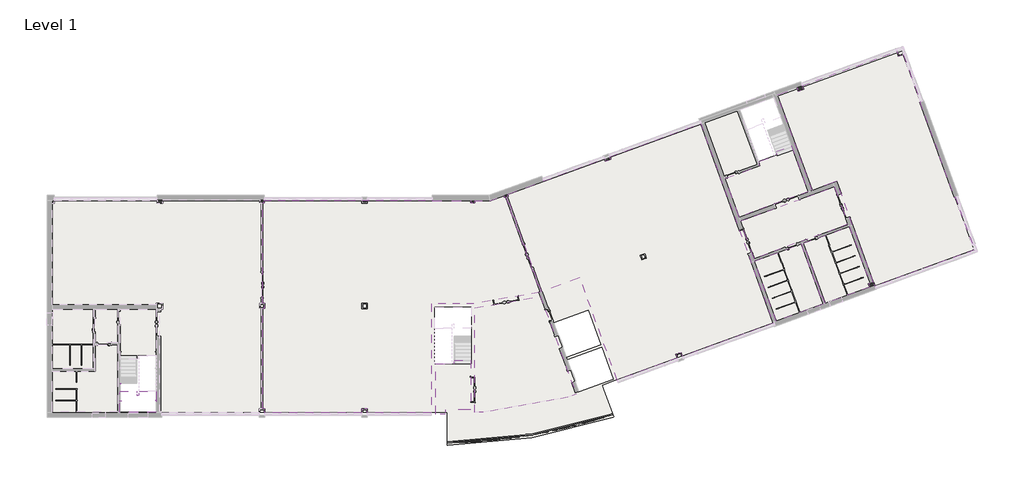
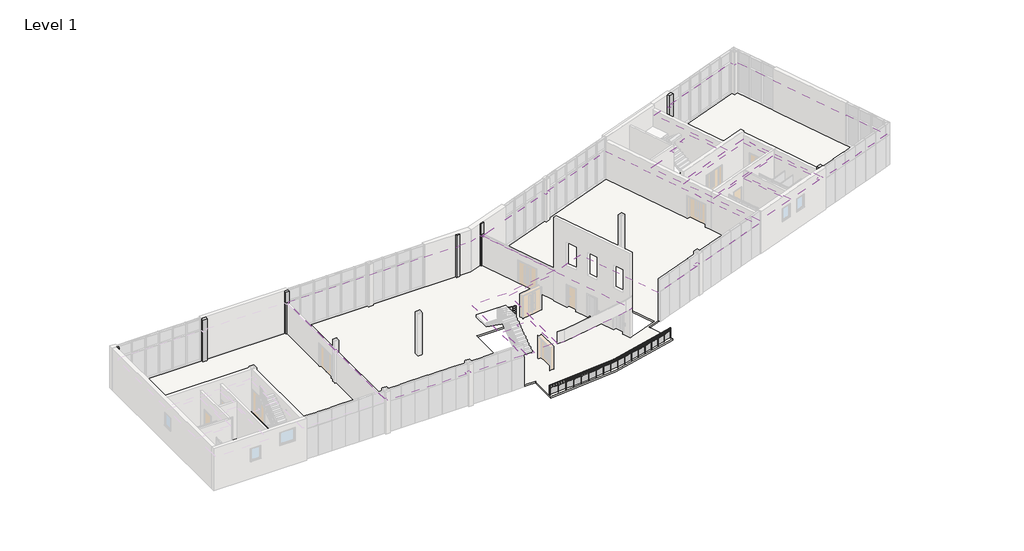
# One storey, part 7 of 12: 9 coverings, 7 columns, 3 proxies, 2 slabs, 1 railing.
"""IFC4 building model written with IfcOpenShell, lengths in millimetres."""

from ifc_helpers import new_model, si_unit, point, frame, frame_2d, origin, place, context, project, spatial, polyline, circle_curve, ellipse_curve, trimmed, segment, composite_curve, outline, extrude, faceted_brep, transform, mapped, element, save
from ifc_brep_helpers import plane_surface, cylinder_surface, revolved_surface, advanced_brep
from components import support_metal_circular1_support_metal_circular_016e83f0

model = new_model("IFC4")

# Units and contexts
model_context = context("Model", 3, world=origin())
ifc_project = project(units=[si_unit("LENGTHUNIT", "METRE", prefix="MILLI")], contexts=[model_context])

# Site, building, storey
site = spatial("IfcSite", under=ifc_project)
building = spatial("IfcBuilding", under=site)
storey = spatial("IfcBuildingStorey", under=building, Name="Level 1", Elevation=3900.0)

# Proxies
placement = place(None, origin())
support_metal_circular1_support_metal_circular_shape = support_metal_circular1_support_metal_circular_016e83f0(model_context)
element("IfcBuildingElementProxy", 1, Name="Support - Metal - Circular1 : Support - Metal - Circular", ObjectType="Support - Metal - Circular1 : Support - Metal - Circular", at=placement, inside=storey, context=model_context, shape_type="MappedRepresentation", body=[
    mapped(support_metal_circular1_support_metal_circular_shape, transform((5322.6000025, 2334.2312733, 6353.300689), x_axis=(0.0, 1.0, 0.0), y_axis=(-1.0, 0.0, 0.0), z_axis=(0.0, 0.0, 1.0))),
])
element("IfcBuildingElementProxy", 2, Name="Support - Metal - Circular1 : Support - Metal - Circular", ObjectType="Support - Metal - Circular1 : Support - Metal - Circular", at=placement, inside=storey, context=model_context, shape_type="MappedRepresentation", body=[
    mapped(support_metal_circular1_support_metal_circular_shape, transform((5322.6000025, 1100.0, 6732.1192282), x_axis=(0.0, 1.0, 0.0), y_axis=(-1.0, 0.0, 0.0), z_axis=(0.0, 0.0, 1.0))),
])
element("IfcBuildingElementProxy", 3, Name="Support - Metal - Circular1 : Support - Metal - Circular", ObjectType="Support - Metal - Circular1 : Support - Metal - Circular", at=placement, inside=storey, context=model_context, shape_type="MappedRepresentation", body=[
    mapped(support_metal_circular1_support_metal_circular_shape, transform((7761.8000024, 1150.0, 6732.1192282), x_axis=(0.0, -1.0, 0.0), y_axis=(1.0, 0.0, 0.0), z_axis=(0.0, 0.0, 1.0))),
])

# Columns
element("IfcColumn", 4, ObjectType="Columns_Rectangular : 300x300mm", at=placement, inside=storey, context=model_context, shape_type="SweptSolid", body=[
    extrude(outline(polyline([(562.2000028, 15173.2000005), (433.0000024, 15173.2000005), (433.0000025, 15351.4000013), (562.2000028, 15351.4000013), (562.2000028, 15173.2000005)])), frame((0.0, 0.0, 3900.0), z_axis=(0.0, 0.0, 1.0), x_axis=(1.0, 0.0, 0.0)), (0.0, 0.0, 1.0), 3900.0),
])
element("IfcColumn", 5, ObjectType="Columns_Rectangular : 300x300mm", at=placement, inside=storey, context=model_context, shape_type="Brep", body=[
    faceted_brep([(32610.0635714, 15583.1099494, 7800.0), (32891.9713576, 15685.7159924, 7800.0), (32844.7041738, 15815.5815126, 7800.0), (32562.7963876, 15712.9754696, 7800.0), (32844.7041738, 15815.5815126, 3900.0), (32891.9713576, 15685.7159924, 3900.0), (32807.3990217, 15654.9341795, 3900.0), (32694.6359072, 15613.8917623, 3900.0), (32610.0635714, 15583.1099494, 3900.0), (32562.7963876, 15712.9754696, 3900.0)], [[[0, 1, 2, 3]], [[4, 5, 6, 7, 8, 9]], [[8, 0, 3, 9]], [[1, 0, 8, 7, 6, 5]], [[1, 5, 4, 2]], [[3, 2, 4, 9]]]),
])
element("IfcColumn", 6, ObjectType="Columns_Rectangular : 300x300mm", at=placement, inside=storey, context=model_context, shape_type="SweptSolid", body=[
    extrude(outline(polyline([(30512.2000025, 15213.2000005), (30212.2000025, 15213.2000005), (30212.2000025, 15351.4000004), (30512.2000025, 15351.4000004), (30512.2000025, 15213.2000005)])), frame((0.0, 0.0, 3900.0), z_axis=(0.0, 0.0, 1.0), x_axis=(1.0, 0.0, 0.0)), (0.0, 0.0, 1.0), 3900.0),
])
element("IfcColumn", 7, ObjectType="Columns_Rectangular : 300x300mm", at=placement, inside=storey, context=model_context, shape_type="Brep", body=[
    faceted_brep([(15212.2000024, 15213.2000005, 7800.0), (15512.2000024, 15213.2000005, 7800.0), (15512.2000024, 15413.4000007, 7800.0), (15212.2000024, 15413.4000007, 7800.0), (15512.2000024, 15213.2000005, 3900.0), (15422.2000024, 15213.2000005, 3900.0), (15302.2000024, 15213.2000005, 3900.0), (15212.2000024, 15213.2000005, 3900.0), (15212.2000024, 15413.4000007, 3900.0), (15512.2000024, 15413.4000007, 3900.0)], [[[0, 1, 2, 3]], [[4, 5, 6, 7, 8, 9]], [[7, 0, 3, 8]], [[1, 0, 7, 6, 5, 4]], [[1, 4, 9, 2]], [[3, 2, 9, 8]]]),
])
element("IfcColumn", 8, ObjectType="Columns_Rectangular : 400x400mm", at=placement, inside=storey, context=model_context, shape_type="SweptSolid", body=[
    extrude(outline(polyline([(53911.2024396, 23282.8815641), (53535.3253912, 23146.0735068), (53441.3724579, 23404.2070696), (53817.2495062, 23541.015127), (53911.2024396, 23282.8815641)])), frame((0.0, 0.0, 3900.0), z_axis=(0.0, 0.0, 1.0), x_axis=(1.0, 0.0, 0.0)), (0.0, 0.0, 1.0), 3900.0),
])
element("IfcColumn", 9, ObjectType="Columns_Rectangular : 400x400mm", at=placement, inside=storey, context=model_context, shape_type="SweptSolid", body=[
    extrude(outline(polyline([(8287.2000028, 15163.2000005), (7887.2000028, 15163.2000005), (7887.2000028, 15413.4000008), (8287.2000028, 15413.4000008), (8287.2000028, 15163.2000005)])), frame((0.0, 0.0, 3900.0), z_axis=(0.0, 0.0, 1.0), x_axis=(1.0, 0.0, 0.0)), (0.0, 0.0, 1.0), 3900.0),
])
element("IfcColumn", 10, ObjectType="Columns_Rectangular : 400x400mm", at=placement, inside=storey, context=model_context, shape_type="Brep", body=[
    faceted_brep([(58904.6965317, 9563.3693005, 7800.0), (58528.8194834, 9426.5612432, 7800.0), (58614.3929232, 9191.4501495, 7800.0), (58990.2699716, 9328.2582068, 7800.0), (58614.3929232, 9191.4501495, 3900.0), (58528.8194834, 9426.5612432, 3900.0), (58646.2810605, 9469.3137609, 3900.0), (58881.2042157, 9554.8187967, 3900.0), (58904.6965317, 9563.3693005, 3900.0), (58990.2699716, 9328.2582068, 3900.0)], [[[0, 1, 2, 3]], [[4, 5, 6, 7, 8, 9]], [[1, 0, 8, 7, 6, 5]], [[1, 5, 4, 2]], [[8, 0, 3, 9]], [[3, 2, 4, 9]]]),
])

# Coverings
element("IfcCovering", 11, ObjectType="24\" x 24\"_Grid", at=placement, inside=storey, context=model_context, shape_type="SweptSolid", body=[
    extrude(outline(polyline([(15537.2000025, 7688.2000003), (15537.2000025, 8038.2000003), (15422.2000024, 8038.2000003), (15422.2000024, 15213.2000005), (15512.2000024, 15213.2000005), (15512.2000024, 15376.4000013), (27487.2000028, 15376.4000013), (27487.2000028, 15351.4000005), (30212.2000025, 15351.4000004), (30212.2000025, 15213.2000005), (30512.2000025, 15213.2000005), (30512.2000025, 15351.4000004), (31569.3759506, 15351.4000004), (32562.7963876, 15712.9754696), (32610.0635714, 15583.1099494), (32694.6359072, 15613.8917623), (35158.2741812, 8845.1012344), (30440.3278369, 8013.2000005), (27412.2000031, 8013.2000004), (27412.2000029, 269.9999995), (22862.2000028, 269.9999995), (22862.2000028, 538.199999), (22462.2000028, 538.199999), (22462.2000028, 269.9999995), (15562.2000028, 269.9999995), (15562.2000028, 538.199999), (15422.2000024, 538.199999), (15422.2000024, 7688.2000003), (15537.2000025, 7688.2000003)]), holes=[polyline([(22882.3447354, 7663.2000003), (22882.3447354, 8063.2000003), (22462.2000024, 8063.2000003), (22462.2000024, 7663.2000003), (22882.3447354, 7663.2000003)])]), frame((0.0, 0.0, 6700.0), z_axis=(0.0, 0.0, 1.0), x_axis=(1.0, 0.0, 0.0)), (0.0, 0.0, 1.0), 52.0),
])
element("IfcCovering", 12, ObjectType="24\" x 24\"_Grid", at=placement, inside=storey, context=model_context, shape_type="SweptSolid", body=[
    extrude(outline(polyline([(37985.6557273, 9877.5855238), (35269.9440535, 8889.1473098), (32807.3990217, 15654.9341795), (32891.9713576, 15685.7159924), (32844.7041738, 15815.5815126), (35405.3665657, 16747.5864031), (35396.8160621, 16771.0787187), (39742.8264311, 18352.8971307), (39807.2836461, 18176.0793824), (40183.2076743, 18312.9045389), (40118.8394836, 18489.7546895), (46579.1582494, 20841.1184239), (51752.691745, 6626.9519648), (45292.3729792, 4275.5882301), (45193.8027741, 4546.4076429), (44817.7897216, 4409.5500841), (44916.3599267, 4138.7306713), (40640.8265039, 2582.5637698), (37985.6557273, 9877.5855238)]), holes=[polyline([(42724.7984316, 11256.6346278), (42605.0913814, 11585.5270451), (42276.1989642, 11465.8199949), (42395.9060144, 11136.9275777), (42724.7984316, 11256.6346278)])]), frame((0.0, 0.0, 6500.0), z_axis=(0.0, 0.0, 1.0), x_axis=(1.0, 0.0, 0.0)), (0.0, 0.0, 1.0), 52.0),
])
element("IfcCovering", 13, ObjectType="24\" x 24\"_Grid", at=placement, inside=storey, context=model_context, shape_type="SweptSolid", body=[
    extrude(outline(polyline([(61005.9307492, 25756.8181916), (62237.203265, 22373.9247568), (62178.0026297, 22352.3774878), (64639.3163891, 15589.9735111), (64698.5170243, 15611.5207802), (66071.7278996, 11838.654908), (59011.8172406, 9269.0575717), (58904.6965317, 9563.3693005), (58881.2042157, 9554.8187967), (56272.4455729, 16722.3242618), (54519.3077353, 16084.2342724), (52040.6193527, 22894.3746339), (53441.3724579, 23404.2070696), (53535.3253912, 23146.0735068), (53911.2024396, 23282.8815641), (53817.0784962, 23541.4849732), (60535.8807344, 25986.9289976), (60664.8223283, 25632.6648797), (61005.9307492, 25756.8181916)])), frame((0.0, 0.0, 6700.0), z_axis=(0.0, 0.0, 1.0), x_axis=(1.0, 0.0, 0.0)), (0.0, 0.0, 1.0), 52.0),
])
element("IfcCovering", 14, ObjectType="24\" x 24\"_Grid", at=placement, inside=storey, context=model_context, shape_type="SweptSolid", body=[
    extrude(outline(polyline([(50396.1862368, 11231.0615383), (49421.3262224, 13909.4674153), (56093.1438296, 16337.8104326), (57068.003844, 13659.4045556), (50396.1862368, 11231.0615383)])), frame((0.0, 0.0, 6700.0), z_axis=(0.0, 0.0, 1.0), x_axis=(1.0, 0.0, 0.0)), (0.0, 0.0, 1.0), 52.0),
])
element("IfcCovering", 15, ObjectType="24\" x 24\"_Grid", at=placement, inside=storey, context=model_context, shape_type="SweptSolid", body=[
    extrude(outline(polyline([(28408.3766929, 146.0000008), (27712.2000028, 146.0000009), (27712.200003, 3763.2000006), (29052.2000029, 3763.2000006), (29052.2000029, 4013.2000006), (30212.2000024, 4013.2000006), (30212.2000023, 470.0000006), (28408.3766929, 470.0000006), (28408.3766929, 146.0000008)])), frame((0.0, 0.0, 6700.0), z_axis=(0.0, 0.0, 1.0), x_axis=(1.0, 0.0, 0.0)), (0.0, 0.0, 1.0), 52.0),
])
element("IfcCovering", 16, ObjectType="24\" x 24\"_Grid", at=placement, inside=storey, context=model_context, shape_type="SweptSolid", body=[
    extrude(outline(composite_curve([segment(polyline([(35172.4630874, 8542.9751379), (37714.7826146, 1558.0096457), (37139.232462, 1348.5265219)]), True, "CONTINUOUS"), segment(trimmed(circle_curve(frame_2d((30685.6603889, 20363.2000005)), 20080.0), [point((37139.232462, 1348.5265219))], [point((31124.6877547, 288.0000022))], False, "CARTESIAN"), True, "CONTINUOUS"), segment(polyline([(31124.6877547, 288.0000022), (30512.2000023, 288.0000022), (30512.2000024, 7721.2450188), (35172.4630874, 8542.9751379)]), True, "CONTINUOUS")], self_intersect=False)), frame((0.0, 0.0, 6700.0), z_axis=(0.0, 0.0, 1.0), x_axis=(1.0, 0.0, 0.0)), (0.0, 0.0, 1.0), 52.0),
])
element("IfcCovering", 17, ObjectType="24\" x 24\"_Grid", at=placement, inside=storey, context=model_context, shape_type="SweptSolid", body=[
    extrude(outline(polyline([(48319.963718, 16935.4360269), (50804.9943671, 17839.9132141), (50697.0762506, 18136.4158024), (52050.0788572, 18628.8684779), (51964.5738214, 18863.791633), (53045.2203355, 19257.1147979), (54237.3999491, 15981.6282294), (49318.7201794, 14191.3752015), (48319.963718, 16935.4360269)])), frame((0.0, 0.0, 6700.0), z_axis=(0.0, 0.0, 1.0), x_axis=(1.0, 0.0, 0.0)), (0.0, 0.0, 1.0), 52.0),
])
element("IfcCovering", 18, ObjectType="Plain", at=placement, inside=storey, context=model_context, shape_type="SweptSolid", body=[
    extrude(outline(polyline([(58646.2810605, 9469.3137609), (58528.8194834, 9426.5612432), (58614.3929232, 9191.4501495), (55449.5081762, 8039.5263068), (53888.7334543, 12327.7196125), (57171.0797785, 13522.3959729), (58646.2810605, 9469.3137609)])), frame((0.0, 0.0, 6700.0), z_axis=(0.0, 0.0, 1.0), x_axis=(1.0, 0.0, 0.0)), (0.0, 0.0, 1.0), 57.0),
])
element("IfcCovering", 19, ObjectType="Plain", at=placement, inside=storey, context=model_context, shape_type="SweptSolid", body=[
    extrude(outline(polyline([(55295.3985864, 7983.4350033), (51966.0676312, 6771.6576357), (50405.2929092, 11059.8509413), (53734.6238645, 12271.628309), (55295.3985864, 7983.4350033)])), frame((0.0, 0.0, 6700.0), z_axis=(0.0, 0.0, 1.0), x_axis=(1.0, 0.0, 0.0)), (0.0, 0.0, 1.0), 57.0),
])

# Railing
element("IfcRailing", 20, ObjectType="Glass_Panel-Bottom_Fill", at=placement, inside=storey, context=model_context, shape_type="SolidModel", body=[
    advanced_brep(
    [(40308.8689844, 181.3840931, 4800.0), (28548.6661194, -1809.3617636, 4800.0), (28549.739034, -1889.3545686, 4800.0), (40334.1834987, 105.4948622, 4800.0)],
    [
        (0, 1, circle_curve(frame((28028.1685328, 36997.1374158, 4800.0), z_axis=(0.0, 0.0, -1.0), x_axis=(0.013411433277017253, -0.9999100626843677, 0.0)), 38809.9896457)),
        (1, 2, ellipse_curve(frame((28549.2025767, -1849.3581661, 4800.0), z_axis=(0.9999100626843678, 0.013411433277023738, 0.0), x_axis=(0.013411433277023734, -0.9999100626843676, 0.0)), 40.0, 30.0)),
        (2, 3, circle_curve(frame((28028.1685328, 36997.1374158, 4800.0), z_axis=(0.0, 0.0, 1.0), x_axis=(0.013411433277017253, -0.9999100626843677, 0.0)), 38889.9896457)),
        (3, 0, ellipse_curve(frame((40321.5262416, 143.4394777, 4800.0), z_axis=(-0.9486153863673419, -0.3164314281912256, 0.0), x_axis=(0.3164314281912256, -0.9486153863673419, 0.0)), 40.0, 30.0)),
        (2, 1, ellipse_curve(frame((28549.2025767, -1849.3581661, 4800.0), z_axis=(0.9999100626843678, 0.013411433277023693, 0.0), x_axis=(0.013411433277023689, -0.9999100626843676, 0.0)), 40.0, 30.0)),
        (0, 3, ellipse_curve(frame((40321.5262416, 143.4394777, 4800.0), z_axis=(-0.9486153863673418, -0.31643142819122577, 0.0), x_axis=(0.31643142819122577, -0.9486153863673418, 0.0)), 40.0, 30.0)),
    ],
    [
        revolved_surface(trimmed(ellipse_curve(frame((28549.2025767, -1849.3581661, 4800.0), z_axis=(-0.9999100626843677, -0.013411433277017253, 0.0), x_axis=(0.013411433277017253, -0.9999100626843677, 0.0)), 40.0, 30.0), [point((28549.739034, -1889.3545686, 4800.0))], [point((28548.6661194, -1809.3617636, 4800.0))], True, "CARTESIAN"), (28028.1685328, 36997.1374158, 4800.0), (0.0, 0.0, 1.0)),
        revolved_surface(trimmed(ellipse_curve(frame((28549.2025767, -1849.3581661, 4800.0), z_axis=(-0.9999100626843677, -0.013411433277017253, 0.0), x_axis=(0.013411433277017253, -0.9999100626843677, 0.0)), 40.0, 30.0), [point((28548.6661194, -1809.3617636, 4800.0))], [point((28549.739034, -1889.3545686, 4800.0))], True, "CARTESIAN"), (28028.1685328, 36997.1374158, 4800.0), (0.0, 0.0, 1.0)),
        plane_surface(frame((28549.2025767, -1849.3581661, 4800.0), z_axis=(-0.9999100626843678, -0.013411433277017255, 0.0), x_axis=(0.013411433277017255, -0.9999100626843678, 0.0))),
        plane_surface(frame((40321.5262416, 143.4394777, 4800.0), z_axis=(0.9486153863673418, 0.3164314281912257, 0.0), x_axis=(0.3164314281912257, -0.9486153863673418, 0.0))),
    ],
    [
        (0, [[1, 2, 3, 4]]),
        (1, [[-3, 5, -1, 6]]),
        (2, [[-5, -2]]),
        (3, [[-4, -6]]),
    ],
),
    extrude(outline(composite_curve([segment(trimmed(circle_curve(frame_2d((28028.1685328, 36997.1374158)), 38859.3804108), [point((40324.4977748, 134.5312533))], [point((28549.3285203, -1858.7480867))], False, "CARTESIAN"), True, "CONTINUOUS"), segment(polyline([(28549.3285203, -1858.7480867), (28549.0602917, -1838.7498855)]), True, "CONTINUOUS"), segment(trimmed(circle_curve(frame_2d((28028.1685328, 36997.1374158)), 38839.3804108), [point((28549.0602917, -1838.7498855))], [point((40318.1691462, 153.5035611))], True, "CARTESIAN"), True, "CONTINUOUS"), segment(polyline([(40318.1691462, 153.5035611), (40324.4977748, 134.5312533)]), True, "CONTINUOUS")], self_intersect=False)), frame((0.0, 0.0, 4680.0), z_axis=(0.0, 0.0, 1.0), x_axis=(1.0, 0.0, 0.0)), (0.0, 0.0, 1.0), 20.0),
    extrude(outline(composite_curve([segment(trimmed(circle_curve(frame_2d((28028.1685328, 36997.1374158)), 38859.3804108), [point((40324.4977748, 134.5312533))], [point((28549.3285203, -1858.7480867))], False, "CARTESIAN"), True, "CONTINUOUS"), segment(polyline([(28549.3285203, -1858.7480867), (28549.0602917, -1838.7498855)]), True, "CONTINUOUS"), segment(trimmed(circle_curve(frame_2d((28028.1685328, 36997.1374158)), 38839.3804108), [point((28549.0602917, -1838.7498855))], [point((40318.1691462, 153.5035611))], True, "CARTESIAN"), True, "CONTINUOUS"), segment(polyline([(40318.1691462, 153.5035611), (40324.4977748, 134.5312533)]), True, "CONTINUOUS")], self_intersect=False)), frame((0.0, 0.0, 4580.0), z_axis=(0.0, 0.0, 1.0), x_axis=(1.0, 0.0, 0.0)), (0.0, 0.0, 1.0), 20.0),
    extrude(outline(polyline([(40266.4314409, 152.0906486), (40277.8190754, 155.8750613), (40293.5874619, 108.4265841), (40282.1998274, 104.6421714), (40266.4314409, 152.0906486)])), frame((0.0, 0.0, 3900.0), z_axis=(0.0, 0.0, 1.0), x_axis=(1.0, 0.0, 0.0)), (0.0, 0.0, 1.0), 869.8465326),
    extrude(outline(polyline([(39614.7863131, -87.6460581), (40281.0268462, 127.1178871), (40282.5608743, 122.3590262), (39616.3203413, -92.404919), (39614.7863131, -87.6460581)])), frame((0.0, 0.0, 4000.0), z_axis=(0.0, 0.0, 1.0), x_axis=(1.0, 0.0, 0.0)), (0.0, 0.0, 1.0), 580.0),
    extrude(outline(polyline([(39600.5954794, -62.4292958), (39612.0494504, -58.8506721), (39626.9603824, -106.5755515), (39615.5064114, -110.1541752), (39600.5954794, -62.4292958)])), frame((0.0, 0.0, 3900.0), z_axis=(0.0, 0.0, 1.0), x_axis=(1.0, 0.0, 0.0)), (0.0, 0.0, 1.0), 869.8465326),
    extrude(outline(polyline([(38944.7367146, -290.3861815), (39614.7385729, -87.6609738), (39616.1866101, -92.4467013), (38946.1847518, -295.1719091), (38944.7367146, -290.3861815)])), frame((0.0, 0.0, 4000.0), z_axis=(0.0, 0.0, 1.0), x_axis=(1.0, 0.0, 0.0)), (0.0, 0.0, 1.0), 580.0),
    extrude(outline(polyline([(38931.0025232, -264.9178317), (38942.5191122, -261.5461589), (38956.5677488, -309.5319464), (38945.0511598, -312.9036192), (38931.0025232, -264.9178317)])), frame((0.0, 0.0, 3900.0), z_axis=(0.0, 0.0, 1.0), x_axis=(1.0, 0.0, 0.0)), (0.0, 0.0, 1.0), 869.8465326),
    extrude(outline(polyline([(38271.1430463, -481.0208902), (38944.6887135, -290.4002347), (38946.0502896, -295.2112752), (38272.5046224, -485.8319306), (38271.1430463, -481.0208902)])), frame((0.0, 0.0, 4000.0), z_axis=(0.0, 0.0, 1.0), x_axis=(1.0, 0.0, 0.0)), (0.0, 0.0, 1.0), 580.0),
    extrude(outline(polyline([(38257.8699559, -455.309221), (38269.445424, -452.1455937), (38282.6272045, -500.3767109), (38271.0517364, -503.5403382), (38257.8699559, -455.309221)])), frame((0.0, 0.0, 3900.0), z_axis=(0.0, 0.0, 1.0), x_axis=(1.0, 0.0, 0.0)), (0.0, 0.0, 1.0), 869.8465326),
    extrude(outline(polyline([(37594.2239908, -659.4882942), (38271.0947997, -481.0340762), (38272.3694727, -485.8688677), (37595.4986637, -664.3230857), (37594.2239908, -659.4882942)])), frame((0.0, 0.0, 4000.0), z_axis=(0.0, 0.0, 1.0), x_axis=(1.0, 0.0, 0.0)), (0.0, 0.0, 1.0), 580.0),
    extrude(outline(polyline([(37581.4163106, -633.5416531), (37593.0468998, -630.5870983), (37605.3575445, -679.0478869), (37593.7269553, -682.0024416), (37581.4163106, -633.5416531)])), frame((0.0, 0.0, 3900.0), z_axis=(0.0, 0.0, 1.0), x_axis=(1.0, 0.0, 0.0)), (0.0, 0.0, 1.0), 869.8465326),
    extrude(outline(polyline([(36914.1993101, -825.7304543), (37594.1755144, -659.5006088), (37595.3628705, -664.3575817), (36915.3866661, -830.5874272), (36914.1993101, -825.7304543)])), frame((0.0, 0.0, 4000.0), z_axis=(0.0, 0.0, 1.0), x_axis=(1.0, 0.0, 0.0)), (0.0, 0.0, 1.0), 580.0),
    extrude(outline(polyline([(36901.8611981, -799.5572647), (36913.5431326, -796.8127417), (36924.9786449, -845.4874688), (36913.2967104, -848.2319918), (36901.8611981, -799.5572647)])), frame((0.0, 0.0, 3900.0), z_axis=(0.0, 0.0, 1.0), x_axis=(1.0, 0.0, 0.0)), (0.0, 0.0, 1.0), 869.8465326),
    extrude(outline(polyline([(36231.2897746, -979.6933996), (36914.1506197, -825.7418934), (36915.2502733, -830.6194709), (36232.3894282, -984.5709771), (36231.2897746, -979.6933996)])), frame((0.0, 0.0, 4000.0), z_axis=(0.0, 0.0, 1.0), x_axis=(1.0, 0.0, 0.0)), (0.0, 0.0, 1.0), 580.0),
    extrude(outline(polyline([(36219.4252364, -953.3021588), (36231.1547236, -950.7685586), (36241.7113911, -999.6414219), (36229.9819039, -1002.1750221), (36219.4252364, -953.3021588)])), frame((0.0, 0.0, 3900.0), z_axis=(0.0, 0.0, 1.0), x_axis=(1.0, 0.0, 0.0)), (0.0, 0.0, 1.0), 869.8465326),
    extrude(outline(polyline([(35545.7170914, -1121.3271461), (36231.2408861, -979.7039597), (36232.2524803, -984.6005582), (35546.7286856, -1126.2237447), (35545.7170914, -1121.3271461)])), frame((0.0, 0.0, 4000.0), z_axis=(0.0, 0.0, 1.0), x_axis=(1.0, 0.0, 0.0)), (0.0, 0.0, 1.0), 580.0),
    extrude(outline(polyline([(35534.3299789, -1094.726422), (35546.1032108, -1092.4045671), (35555.7776061, -1141.4597001), (35544.0043741, -1143.781555), (35534.3299789, -1094.726422)])), frame((0.0, 0.0, 3900.0), z_axis=(0.0, 0.0, 1.0), x_axis=(1.0, 0.0, 0.0)), (0.0, 0.0, 1.0), 869.8465326),
    extrude(outline(polyline([(34857.703832, -1250.5857124), (35545.6680206, -1121.3368236), (35546.5912269, -1126.2508536), (34858.6270383, -1255.4997423), (34857.703832, -1250.5857124)])), frame((0.0, 0.0, 4000.0), z_axis=(0.0, 0.0, 1.0), x_axis=(1.0, 0.0, 0.0)), (0.0, 0.0, 1.0), 580.0),
    extrude(outline(polyline([(34846.7978419, -1223.7841408), (34858.6109963, -1221.674785), (34867.3999787, -1270.8962619), (34855.5868242, -1273.0056177), (34846.7978419, -1223.7841408)])), frame((0.0, 0.0, 3900.0), z_axis=(0.0, 0.0, 1.0), x_axis=(1.0, 0.0, 0.0)), (0.0, 0.0, 1.0), 869.8465326),
    extrude(outline(polyline([(34167.4733602, -1367.4271344), (34857.6545947, -1250.5945042), (34858.4891135, -1255.5243701), (34168.307879, -1372.3570004), (34167.4733602, -1367.4271344)])), frame((0.0, 0.0, 4000.0), z_axis=(0.0, 0.0, 1.0), x_axis=(1.0, 0.0, 0.0)), (0.0, 0.0, 1.0), 580.0),
    extrude(outline(polyline([(34157.0520331, -1340.4334166), (34168.901275, -1338.5372447), (34176.8019911, -1387.9090857), (34164.9527492, -1389.8052576), (34157.0520331, -1340.4334166)])), frame((0.0, 0.0, 3900.0), z_axis=(0.0, 0.0, 1.0), x_axis=(1.0, 0.0, 0.0)), (0.0, 0.0, 1.0), 869.8465326),
    extrude(outline(polyline([(33475.2497597, -1471.8134797), (34167.4239725, -1367.4350377), (34168.1695328, -1372.3791392), (33475.99532, -1476.7575812), (33475.2497597, -1471.8134797)])), frame((0.0, 0.0, 4000.0), z_axis=(0.0, 0.0, 1.0), x_axis=(1.0, 0.0, 0.0)), (0.0, 0.0, 1.0), 580.0),
    extrude(outline(polyline([(33465.3164791, -1444.6363791), (33477.1979614, -1442.9540068), (33484.2078462, -1492.4601833), (33472.3263639, -1494.1425556), (33465.3164791, -1444.6363791)])), frame((0.0, 0.0, 3900.0), z_axis=(0.0, 0.0, 1.0), x_axis=(1.0, 0.0, 0.0)), (0.0, 0.0, 1.0), 869.8465326),
    extrude(outline(polyline([(32781.2577613, -1563.7108591), (33475.2002376, -1471.8204918), (33475.8565974, -1476.7772238), (32781.9141211, -1568.667591), (32781.2577613, -1563.7108591)])), frame((0.0, 0.0, 4000.0), z_axis=(0.0, 0.0, 1.0), x_axis=(1.0, 0.0, 0.0)), (0.0, 0.0, 1.0), 580.0),
    extrude(outline(polyline([(32771.8157519, -1536.3591988), (32783.7256175, -1534.8911722), (32789.8423953, -1584.515612), (32777.9325297, -1585.9836387), (32771.8157519, -1536.3591988)])), frame((0.0, 0.0, 3900.0), z_axis=(0.0, 0.0, 1.0), x_axis=(1.0, 0.0, 0.0)), (0.0, 0.0, 1.0), 869.8465326),
    extrude(outline(polyline([(32085.72267, -1643.089438), (32781.208121, -1563.7169778), (32781.7750671, -1568.684731), (32086.2896161, -1648.0571912), (32085.72267, -1643.089438)])), frame((0.0, 0.0, 4000.0), z_axis=(0.0, 0.0, 1.0), x_axis=(1.0, 0.0, 0.0)), (0.0, 0.0, 1.0), 580.0),
    extrude(outline(polyline([(32076.7749971, -1615.5720979), (32088.7093793, -1614.3188935), (32093.9310643, -1664.045486), (32081.9966821, -1665.2986904), (32076.7749971, -1615.5720979)])), frame((0.0, 0.0, 3900.0), z_axis=(0.0, 0.0, 1.0), x_axis=(1.0, 0.0, 0.0)), (0.0, 0.0, 1.0), 869.8465326),
    extrude(outline(polyline([(31388.8702915, -1709.9234463), (32085.6729274, -1643.0946614), (32086.1502759, -1648.0718231), (31389.3476399, -1714.900608), (31388.8702915, -1709.9234463)])), frame((0.0, 0.0, 4000.0), z_axis=(0.0, 0.0, 1.0), x_axis=(1.0, 0.0, 0.0)), (0.0, 0.0, 1.0), 580.0),
    extrude(outline(polyline([(31380.4198601, -1682.2493597), (31392.3748844, -1681.2113844), (31396.6997813, -1731.0239859), (31384.7447569, -1732.0619612), (31380.4198601, -1682.2493597)])), frame((0.0, 0.0, 3900.0), z_axis=(0.0, 0.0, 1.0), x_axis=(1.0, 0.0, 0.0)), (0.0, 0.0, 1.0), 869.8465326),
    extrude(outline(polyline([(30690.9268593, -1764.1911861), (31388.8204629, -1709.9277726), (31389.2080587, -1714.9127269), (30691.3144551, -1769.1761404), (30690.9268593, -1764.1911861)])), frame((0.0, 0.0, 4000.0), z_axis=(0.0, 0.0, 1.0), x_axis=(1.0, 0.0, 0.0)), (0.0, 0.0, 1.0), 580.0),
    extrude(outline(polyline([(30682.9764127, -1736.3693375), (30694.948198, -1735.5469284), (30698.3749028, -1785.4293671), (30686.4031175, -1786.2517763), (30682.9764127, -1736.3693375)])), frame((0.0, 0.0, 3900.0), z_axis=(0.0, 0.0, 1.0), x_axis=(1.0, 0.0, 0.0)), (0.0, 0.0, 1.0), 869.8465326),
    extrude(outline(polyline([(29992.1189611, -1805.8750395), (30690.8769608, -1764.1946139), (30691.1746782, -1769.1857425), (29992.4166785, -1810.8661681), (29992.1189611, -1805.8750395)])), frame((0.0, 0.0, 4000.0), z_axis=(0.0, 0.0, 1.0), x_axis=(1.0, 0.0, 0.0)), (0.0, 0.0, 1.0), 580.0),
    extrude(outline(polyline([(29984.6710806, -1777.9144613), (29996.6557402, -1777.3078852), (29999.1831403, -1827.2439669), (29987.1984807, -1827.8505429), (29984.6710806, -1777.9144613)])), frame((0.0, 0.0, 3900.0), z_axis=(0.0, 0.0, 1.0), x_axis=(1.0, 0.0, 0.0)), (0.0, 0.0, 1.0), 869.8465326),
    extrude(outline(polyline([(29292.6734654, -1834.9614737), (29992.069009, -1805.8775677), (29992.2767512, -1810.8732502), (29292.8812076, -1839.9571562), (29292.6734654, -1834.9614737)])), frame((0.0, 0.0, 4000.0), z_axis=(0.0, 0.0, 1.0), x_axis=(1.0, 0.0, 0.0)), (0.0, 0.0, 1.0), 580.0),
    extrude(outline(polyline([(29285.7305689, -1806.8712433), (29297.7242119, -1806.4806973), (29299.3514869, -1856.45421), (29287.3578438, -1856.844756), (29285.7305689, -1806.8712433)])), frame((0.0, 0.0, 3900.0), z_axis=(0.0, 0.0, 1.0), x_axis=(1.0, 0.0, 0.0)), (0.0, 0.0, 1.0), 869.8465326),
    extrude(outline(polyline([(28592.8174475, -1851.4410459), (29292.6234759, -1834.9631015), (29292.7411755, -1839.961716), (28592.9351471, -1856.4396604), (28592.8174475, -1851.4410459)])), frame((0.0, 0.0, 4000.0), z_axis=(0.0, 0.0, 1.0), x_axis=(1.0, 0.0, 0.0)), (0.0, 0.0, 1.0), 580.0),
    extrude(outline(polyline([(28586.3817889, -1823.2302827), (28598.3805217, -1823.0558936), (28599.1071432, -1873.0506135), (28587.1084105, -1873.2250027), (28586.3817889, -1823.2302827)])), frame((0.0, 0.0, 3900.0), z_axis=(0.0, 0.0, 1.0), x_axis=(1.0, 0.0, 0.0)), (0.0, 0.0, 1.0), 869.8465326),
    extrude(outline(polyline([(40305.8348586, 165.2020895), (40317.2184387, 168.9986806), (40333.0375683, 121.5670968), (40321.6539882, 117.7705057), (40305.8348586, 165.2020895)])), frame((0.0, 0.0, 3900.0), z_axis=(0.0, 0.0, 1.0), x_axis=(1.0, 0.0, 0.0)), (0.0, 0.0, 1.0), 869.8465326),
    extrude(outline(polyline([(28544.8581965, -1823.8051549), (28556.8571089, -1823.6436), (28557.5302544, -1873.6390686), (28545.5313419, -1873.8006235), (28544.8581965, -1823.8051549)])), frame((0.0, 0.0, 3900.0), z_axis=(0.0, 0.0, 1.0), x_axis=(1.0, 0.0, 0.0)), (0.0, 0.0, 1.0), 869.8465326),
])

# Slabs
element("IfcSlab", 21, ObjectType="8\"_Thickness", at=placement, inside=storey, context=model_context, shape_type="SolidModel", body=[
    faceted_brep([(6447.2000025, 1800.0, 5849.0), (5247.2000025, 1800.0, 5849.0), (5247.2000025, 1572.7280846, 5849.0), (5247.2000025, 300.0000001, 5849.0), (7837.2000024, 300.0000001, 5849.0), (7837.2000024, 1777.2719153, 5849.0), (7837.2000024, 1800.0, 5849.0), (6637.2000026, 1800.0, 5849.0), (6637.2000026, 1777.2719153, 5849.0), (6637.2000026, 1500.0, 5849.0), (6447.2000025, 1500.0, 5849.0), (6447.2000025, 1572.7280846, 5849.0), (6447.2000025, 1800.0, 5487.8435509), (6447.2000025, 1800.0, 5671.7272727), (6447.2000025, 1500.0, 5649.0), (6447.2000025, 1572.7280846, 5649.0), (5247.2000025, 1800.0, 5671.7272727), (5247.2000025, 1800.0, 5487.8435509), (5247.2000025, 1572.7280846, 5649.0), (5247.2000025, 300.0000001, 5649.0), (6637.2000026, 1800.0, 5665.1162782), (6637.2000026, 1777.2719153, 5649.0), (6637.2000026, 1500.0, 5649.0), (7837.2000024, 1777.2719153, 5649.0), (7837.2000024, 300.0000001, 5649.0), (7837.2000024, 1800.0, 5665.1162782)], [[[0, 1, 2, 3, 4, 5, 6, 7, 8, 9, 10, 11]], [[12, 13, 0, 11, 10, 14, 15]], [[1, 16, 17, 18, 19, 3, 2]], [[7, 20, 21, 22, 9, 8]], [[18, 15, 14, 22, 21, 23, 24, 19]], [[15, 18, 17, 12]], [[23, 21, 20, 25]], [[1, 0, 13, 12, 17, 16]], [[4, 3, 19, 24]], [[4, 24, 23, 25, 6, 5]], [[7, 6, 25, 20]], [[10, 9, 22, 14]]]),
    extrude(outline(polyline([(6447.2000025, 1800.0), (6447.2000025, 1500.0), (6637.2000026, 1500.0), (6637.2000026, 1800.0), (7837.2000024, 1800.0), (7837.2000024, 300.0000001), (5247.2000025, 300.0000001), (5247.2000025, 1800.0), (6447.2000025, 1800.0)])), frame((0.0, 0.0, 5849.0), z_axis=(0.0, 0.0, 1.0), x_axis=(1.0, 0.0, 0.0)), (0.0, 0.0, 1.0), 1.0),
])
element("IfcSlab", 22, ObjectType="Generic - 6\"", at=placement, inside=storey, context=model_context, shape_type="AdvancedBrep", body=[
    advanced_brep(
    [(39568.1602739, 2232.5839466, 3760.0), (39591.4176437, 2168.6848483, 3760.0), (39666.6620752, 1961.9524718, 3760.0), (40395.5382999, -40.6184973, 3760.0), (40371.8118375, -48.5324498, 3760.0), (28564.8790145, -2047.1892767, 3760.0), (28539.8766926, -2047.5251299, 3760.0), (28539.8766928, 158.0000005, 3760.0), (28539.8766928, 288.0000005, 3760.0), (27712.2000029, 288.0000005, 3760.0), (27412.2000029, 288.0000005, 3760.0), (408.0, 288.0, 3760.0), (408.0000025, 15318.4000008, 3760.0), (31575.1947409, 15318.4000004, 3760.0), (49365.7516644, 21794.2000413, 3760.0), (50697.0762506, 18136.4158024, 3760.0), (52050.0788572, 18628.8684779, 3760.0), (51964.5738214, 18863.791633, 3760.0), (53106.6762329, 19279.4829152, 3760.0), (51860.831131, 22702.4142012, 3760.0), (60882.0231289, 25986.1470129, 3760.0), (66023.0228145, 11861.366462, 3760.0), (40627.8297383, 2618.2720897, 3760.0), (40392.9065831, 2532.7670539, 3760.0), (38570.0121341, 7541.1283909, 3760.0), (36126.8113195, 6651.8760181, 3760.0), (37017.2607629, 4205.3862799, 3760.0), (39460.4615772, 5094.6386527, 3760.0), (39528.8656059, 4906.7001285, 3760.0), (37085.6647918, 4017.4477559, 3760.0), (37905.7561806, 1764.2651831, 3760.0), (40348.9569947, 2653.5175556, 3760.0), (29052.2000029, 4013.2000006, 3760.0), (30252.200003, 4013.2000006, 3760.0), (30252.200003, 7713.2000005, 3760.0), (30252.200003, 7757.8000004, 3760.0), (27712.2000031, 7757.8000004, 3760.0), (27667.6000031, 7757.8000004, 3760.0), (27667.6000031, 3763.2000006, 3760.0), (27712.200003, 3763.2000006, 3760.0), (29052.2000029, 3763.2000006, 3760.0), (5259.2000024, 4050.0, 3760.0), (5259.2000024, 345.4000001, 3760.0), (7841.8000023, 345.4000001, 3760.0), (7841.8000023, 4300.0, 3760.0), (6497.2000024, 4300.0, 3760.0), (6497.2000024, 4050.0, 3760.0), (40395.5382999, -40.6184973, 3900.0), (39666.6620752, 1961.9524718, 3900.0), (39591.4176437, 2168.6848483, 3900.0), (39568.1602739, 2232.5839466, 3900.0), (40392.9065831, 2532.7670539, 3900.0), (40627.8297383, 2618.2720897, 3900.0), (66023.0228145, 11861.366462, 3900.0), (60882.0231289, 25986.1470129, 3900.0), (51860.831131, 22702.4142012, 3900.0), (53106.6762329, 19279.4829152, 3900.0), (51964.5738214, 18863.791633, 3900.0), (52050.0788572, 18628.8684779, 3900.0), (50697.0762506, 18136.4158024, 3900.0), (49365.7516644, 21794.2000413, 3900.0), (31575.1947409, 15318.4000004, 3900.0), (408.0000025, 15318.4000008, 3900.0), (408.0, 288.0, 3900.0), (27412.2000029, 288.0000005, 3900.0), (27712.2000029, 288.0000005, 3900.0), (28539.8766928, 288.0000005, 3900.0), (28539.8766928, 158.0000005, 3900.0), (28539.8766926, -2047.5251299, 3900.0), (28564.8790145, -2047.1892767, 3900.0), (40371.8118375, -48.5324498, 3900.0), (36126.8113195, 6651.8760181, 3900.0), (38570.0121341, 7541.1283909, 3900.0), (39460.4615772, 5094.6386527, 3900.0), (37017.2607629, 4205.3862799, 3900.0), (37085.6647918, 4017.4477559, 3900.0), (39528.8656059, 4906.7001285, 3900.0), (40348.9569947, 2653.5175556, 3900.0), (37905.7561806, 1764.2651831, 3900.0), (30252.200003, 4013.2000006, 3900.0), (29052.2000029, 4013.2000006, 3900.0), (29052.2000029, 3763.2000006, 3900.0), (27712.200003, 3763.2000006, 3900.0), (27667.6000031, 3763.2000006, 3900.0), (27667.6000031, 7757.8000004, 3900.0), (27712.2000031, 7757.8000004, 3900.0), (30252.200003, 7757.8000004, 3900.0), (30252.200003, 7713.2000005, 3900.0), (5259.2000024, 345.4000001, 3900.0), (5259.2000024, 4050.0, 3900.0), (6497.2000024, 4050.0, 3900.0), (6497.2000024, 4300.0, 3900.0), (7841.8000023, 4300.0, 3900.0), (7841.8000023, 345.4000001, 3900.0)],
    [
        (0, 1),
        (1, 2),
        (2, 3),
        (3, 4, circle_curve(frame((28027.924496, 36998.4991929, 3760.0), z_axis=(0.0, 0.0, -1.0), x_axis=(1.0, 0.0, 0.0)), 39049.3804108)),
        (4, 5, circle_curve(frame((28027.924496, 36998.4991929, 3760.0), z_axis=(0.0, 0.0, -1.0), x_axis=(1.0, 0.0, 0.0)), 39049.3803822)),
        (5, 6, circle_curve(frame((28027.924496, 36998.4991929, 3760.0), z_axis=(0.0, 0.0, -1.0), x_axis=(1.0, 0.0, 0.0)), 39049.380382)),
        (6, 7),
        (7, 8),
        (8, 9),
        (9, 10),
        (10, 11),
        (11, 12),
        (12, 13),
        (13, 14),
        (14, 15),
        (15, 16),
        (16, 17),
        (17, 18),
        (18, 19),
        (19, 20),
        (20, 21),
        (21, 22),
        (22, 23),
        (23, 0),
        (24, 25),
        (25, 26),
        (26, 27),
        (27, 24),
        (28, 29),
        (29, 30),
        (30, 31),
        (31, 28),
        (32, 33),
        (33, 34),
        (34, 35),
        (35, 36),
        (36, 37),
        (37, 38),
        (38, 39),
        (39, 40),
        (40, 32),
        (41, 42),
        (42, 43),
        (43, 44),
        (44, 45),
        (45, 46),
        (46, 41),
        (47, 48),
        (48, 49),
        (49, 50),
        (50, 51),
        (51, 52),
        (52, 53),
        (53, 54),
        (54, 55),
        (55, 56),
        (56, 57),
        (57, 58),
        (58, 59),
        (59, 60),
        (60, 61),
        (61, 62),
        (62, 63),
        (63, 64),
        (64, 65),
        (65, 66),
        (66, 67),
        (67, 68),
        (68, 69, circle_curve(frame((28027.924496, 36998.4991929, 3900.0), z_axis=(0.0, 0.0, 1.0), x_axis=(1.0, 0.0, 0.0)), 39049.3804108)),
        (69, 70, circle_curve(frame((28027.924496, 36998.4991929, 3900.0), z_axis=(0.0, 0.0, 1.0), x_axis=(1.0, 0.0, 0.0)), 39049.380382)),
        (70, 47, circle_curve(frame((28027.924496, 36998.4991929, 3900.0), z_axis=(0.0, 0.0, 1.0), x_axis=(1.0, 0.0, 0.0)), 39049.3803822)),
        (71, 72),
        (72, 73),
        (73, 74),
        (74, 71),
        (75, 76),
        (76, 77),
        (77, 78),
        (78, 75),
        (79, 80),
        (80, 81),
        (81, 82),
        (82, 83),
        (83, 84),
        (84, 85),
        (85, 86),
        (86, 87),
        (87, 79),
        (88, 89),
        (89, 90),
        (90, 91),
        (91, 92),
        (92, 93),
        (93, 88),
        (0, 50),
        (47, 3),
        (68, 6),
        (66, 8),
        (24, 72),
        (71, 25),
        (74, 26),
        (73, 27),
        (28, 76),
        (75, 29),
        (78, 30),
        (77, 31),
        (63, 11),
        (62, 12),
        (61, 13),
        (60, 14),
        (54, 20),
        (19, 55),
        (53, 21),
        (32, 80),
        (79, 33),
        (86, 35),
        (84, 37),
        (83, 38),
        (81, 40),
        (88, 42),
        (41, 89),
        (93, 43),
        (92, 44),
        (91, 45),
        (15, 59),
        (58, 16),
        (18, 56),
        (90, 46),
        (57, 17),
    ],
    [
        plane_surface(frame((67077.3049068, 36998.4991929, 3760.0), z_axis=(0.0, 0.0, -1.0), x_axis=(0.0, -1.0, 0.0))),
        plane_surface(frame((67077.3049068, 36998.4991929, 3900.0), z_axis=(0.0, 0.0, 1.0), x_axis=(0.0, 1.0, 0.0))),
        plane_surface(frame((39568.1602739, 2232.5839466, 3760.0), z_axis=(0.9396926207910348, 0.34202014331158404, 0.0), x_axis=(0.0, 0.0, 1.0))),
        cylinder_surface(frame((28027.924496, 36998.4991929, 3900.0), z_axis=(0.0, 0.0, -1.0), x_axis=(1.0, 0.0, 0.0)), 39049.3804108),
        plane_surface(frame((28539.8766926, -2047.5251299, 3760.0), z_axis=(-1.0, 5.6007112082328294e-11, 0.0), x_axis=(0.0, 0.0, 1.0))),
        plane_surface(frame((38570.0121341, 7541.1283909, 4624.8), z_axis=(0.3420201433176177, -0.9396926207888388, 0.0), x_axis=(0.0, 0.0, -1.0))),
        plane_surface(frame((36126.8113195, 6651.8760181, 4624.8), z_axis=(0.9396926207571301, 0.34202014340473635, 0.0), x_axis=(0.0, 0.0, -1.0))),
        plane_surface(frame((37017.2607629, 4205.3862799, 4624.8), z_axis=(-0.3420201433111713, 0.9396926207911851, 0.0), x_axis=(0.0, 0.0, -1.0))),
        plane_surface(frame((39460.4615772, 5094.6386527, 4624.8), z_axis=(-0.939692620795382, -0.3420201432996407, 0.0), x_axis=(0.0, 0.0, -1.0))),
        plane_surface(frame((39528.8656059, 4906.7001285, 4624.8), z_axis=(0.34202014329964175, -0.9396926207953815, 0.0), x_axis=(0.0, 0.0, -1.0))),
        plane_surface(frame((37085.6647918, 4017.4477559, 4624.8), z_axis=(0.9396926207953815, 0.3420201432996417, 0.0), x_axis=(0.0, 0.0, -1.0))),
        plane_surface(frame((37905.7561806, 1764.2651831, 4624.8), z_axis=(-0.34202014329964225, 0.9396926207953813, 0.0), x_axis=(0.0, 0.0, -1.0))),
        plane_surface(frame((40348.9569947, 2653.5175556, 4624.8), z_axis=(-0.9396926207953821, -0.34202014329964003, 0.0), x_axis=(0.0, 0.0, -1.0))),
        plane_surface(frame((28539.8766928, 288.0000005, 3760.0), z_axis=(1.719869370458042e-11, -1.0, 0.0), x_axis=(0.0, 0.0, 1.0))),
        plane_surface(frame((408.0, 288.0, 3760.0), z_axis=(-1.0, 1.600286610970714e-10, 0.0), x_axis=(0.0, 0.0, 1.0))),
        plane_surface(frame((408.0000025, 15318.4000008, 3760.0), z_axis=(1.144336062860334e-11, 1.0, 0.0), x_axis=(0.0, 0.0, 1.0))),
        plane_surface(frame((31575.1947409, 15318.4000004, 3760.0), z_axis=(-0.342046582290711, 0.9396829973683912, 0.0), x_axis=(0.0, 0.0, 1.0))),
        plane_surface(frame((60882.0231289, 25986.1470129, 3760.0), z_axis=(0.9396926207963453, 0.34202014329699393, 0.0), x_axis=(0.0, 0.0, 1.0))),
        plane_surface(frame((66023.0228145, 11861.366462, 3760.0), z_axis=(0.34202014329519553, -0.9396926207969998, 0.0), x_axis=(0.0, 0.0, 1.0))),
        plane_surface(frame((29052.2000029, 4013.2000006, 8104.8), z_axis=(0.0, 1.0, 0.0), x_axis=(0.0, 0.0, -1.0))),
        plane_surface(frame((30252.200003, 4013.2000006, 8104.8), z_axis=(-1.0, 0.0, 0.0), x_axis=(0.0, 0.0, -1.0))),
        plane_surface(frame((30252.200003, 7757.8000004, 8104.8), z_axis=(0.0, -1.0, 0.0), x_axis=(0.0, 0.0, -1.0))),
        plane_surface(frame((27667.6000031, 7757.8000004, 8104.8), z_axis=(1.0, 0.0, 0.0), x_axis=(0.0, 0.0, -1.0))),
        plane_surface(frame((27667.6000031, 3763.2000006, 8104.8), z_axis=(0.0, 1.0, 0.0), x_axis=(0.0, 0.0, -1.0))),
        plane_surface(frame((29052.2000029, 3763.2000006, 8104.8), z_axis=(-1.0, 0.0, 0.0), x_axis=(0.0, 0.0, -1.0))),
        plane_surface(frame((5259.2000024, 4050.0, 4624.8), z_axis=(1.0, 0.0, 0.0), x_axis=(0.0, 0.0, -1.0))),
        plane_surface(frame((5259.2000024, 345.4000001, 4624.8), z_axis=(0.0, 1.0, 0.0), x_axis=(0.0, 0.0, -1.0))),
        plane_surface(frame((7841.8000023, 345.4000001, 4624.8), z_axis=(-1.0, 0.0, 0.0), x_axis=(0.0, 0.0, -1.0))),
        plane_surface(frame((7841.8000023, 4300.0, 4624.8), z_axis=(0.0, -1.0, 0.0), x_axis=(0.0, 0.0, -1.0))),
        plane_surface(frame((50697.0762506, 18136.4158024, 4624.8), z_axis=(-0.34202014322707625, 0.9396926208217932, 0.0), x_axis=(0.0, 0.0, -1.0))),
        plane_surface(frame((53106.6762329, 19279.4829152, 4624.8), z_axis=(-0.9396926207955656, -0.3420201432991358, 0.0), x_axis=(0.0, 0.0, -1.0))),
        plane_surface(frame((49332.4158788, 21885.7893593, 4624.8), z_axis=(0.9396926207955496, 0.3420201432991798, 0.0), x_axis=(0.0, 0.0, -1.0))),
        plane_surface(frame((6497.2000024, 4300.0, 4624.8), z_axis=(1.0, 0.0, 0.0), x_axis=(0.0, 0.0, -1.0))),
        plane_surface(frame((6497.2000024, 4050.0, 4624.8), z_axis=(0.0, -1.0, 0.0), x_axis=(0.0, 0.0, -1.0))),
        plane_surface(frame((52050.0788572, 18628.8684779, 4624.8), z_axis=(-0.9396926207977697, -0.3420201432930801, 0.0), x_axis=(0.0, 0.0, -1.0))),
        plane_surface(frame((51964.5738214, 18863.791633, 4624.8), z_axis=(-0.3420201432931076, 0.9396926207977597, 0.0), x_axis=(0.0, 0.0, -1.0))),
    ],
    [
        (0, [[1, 2, 3, 4, 5, 6, 7, 8, 9, 10, 11, 12, 13, 14, 15, 16, 17, 18, 19, 20, 21, 22, 23, 24], [25, 26, 27, 28], [29, 30, 31, 32], [33, 34, 35, 36, 37, 38, 39, 40, 41], [42, 43, 44, 45, 46, 47]]),
        (1, [[48, 49, 50, 51, 52, 53, 54, 55, 56, 57, 58, 59, 60, 61, 62, 63, 64, 65, 66, 67, 68, 69, 70, 71], [72, 73, 74, 75], [76, 77, 78, 79], [80, 81, 82, 83, 84, 85, 86, 87, 88], [89, 90, 91, 92, 93, 94]]),
        (2, [[-3, -2, -1, 95, -50, -49, -48, 96]]),
        (3, [[-6, -5, -4, -96, -71, -70, -69, 97]]),
        (4, [[-8, -7, -97, -68, -67, 98]]),
        (5, [[99, -72, 100, -25]]),
        (6, [[-100, -75, 101, -26]]),
        (7, [[-101, -74, 102, -27]]),
        (8, [[-99, -28, -102, -73]]),
        (9, [[103, -76, 104, -29]]),
        (10, [[-104, -79, 105, -30]]),
        (11, [[-105, -78, 106, -31]]),
        (12, [[-103, -32, -106, -77]]),
        (13, [[-11, -10, -9, -98, -66, -65, -64, 107]]),
        (14, [[-12, -107, -63, 108]]),
        (15, [[-13, -108, -62, 109]]),
        (16, [[-109, -61, 110, -14]]),
        (16, [[111, -20, 112, -55]]),
        (17, [[-21, -111, -54, 113]]),
        (18, [[-24, -23, -22, -113, -53, -52, -51, -95]]),
        (19, [[114, -80, 115, -33]]),
        (20, [[-115, -88, -87, 116, -35, -34]]),
        (21, [[-116, -86, -85, 117, -37, -36]]),
        (22, [[-117, -84, 118, -38]]),
        (23, [[-118, -83, -82, 119, -40, -39]]),
        (24, [[-114, -41, -119, -81]]),
        (25, [[120, -42, 121, -89]]),
        (26, [[-120, -94, 122, -43]]),
        (27, [[-122, -93, 123, -44]]),
        (28, [[-123, -92, 124, -45]]),
        (29, [[125, -59, 126, -16]]),
        (30, [[127, -56, -112, -19]]),
        (31, [[-125, -15, -110, -60]]),
        (32, [[-124, -91, 128, -46]]),
        (33, [[-121, -47, -128, -90]]),
        (34, [[-126, -58, 129, -17]]),
        (35, [[-127, -18, -129, -57]]),
    ],
),
])

save(model, "model.ifc")
